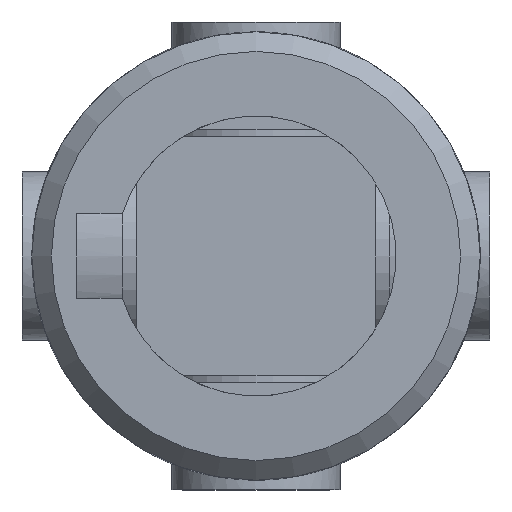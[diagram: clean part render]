
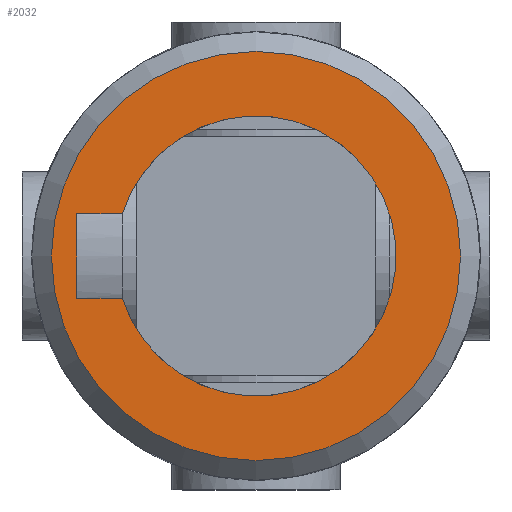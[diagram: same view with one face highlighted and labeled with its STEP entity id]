
A CAD part, front view. The second image highlights one B-rep face of the part: STEP entity #2032.
In plain terms, the highlighted planar face has unit normal (0, -1, 0).
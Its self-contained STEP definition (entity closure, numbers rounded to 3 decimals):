
#122=LINE('',#3659,#201);
#124=LINE('',#3665,#203);
#128=LINE('',#3677,#207);
#201=VECTOR('',#2594,3.);
#203=VECTOR('',#2600,1.63);
#207=VECTOR('',#2612,1.63);
#283=PLANE('',#2226);
#452=FACE_BOUND('',#711,.T.);
#547=FACE_OUTER_BOUND('',#710,.T.);
#710=EDGE_LOOP('',(#1703));
#711=EDGE_LOOP('',(#1704,#1705,#1706,#1707));
#832=CIRCLE('',#2212,5.);
#839=CIRCLE('',#2224,7.3);
#983=VERTEX_POINT('',#3656);
#984=VERTEX_POINT('',#3658);
#986=VERTEX_POINT('',#3664);
#990=VERTEX_POINT('',#3675);
#1004=VERTEX_POINT('',#3776);
#1225=EDGE_CURVE('',#984,#983,#122,.T.);
#1228=EDGE_CURVE('',#986,#984,#124,.T.);
#1234=EDGE_CURVE('',#983,#990,#128,.T.);
#1243=EDGE_CURVE('',#990,#986,#832,.T.);
#1255=EDGE_CURVE('',#1004,#1004,#839,.T.);
#1703=ORIENTED_EDGE('',*,*,#1255,.F.);
#1704=ORIENTED_EDGE('',*,*,#1234,.T.);
#1705=ORIENTED_EDGE('',*,*,#1243,.T.);
#1706=ORIENTED_EDGE('',*,*,#1228,.T.);
#1707=ORIENTED_EDGE('',*,*,#1225,.T.);
#2032=ADVANCED_FACE('',(#547,#452),#283,.F.);
#2212=AXIS2_PLACEMENT_3D('',#3722,#2621,#2622);
#2224=AXIS2_PLACEMENT_3D('',#3777,#2646,#2647);
#2226=AXIS2_PLACEMENT_3D('',#3945,#2654,#2655);
#2594=DIRECTION('',(-1.,0.,0.));
#2600=DIRECTION('',(0.,0.,-1.));
#2612=DIRECTION('',(0.,0.,1.));
#2621=DIRECTION('center_axis',(0.,1.,0.));
#2622=DIRECTION('ref_axis',(-0.3,0.,0.954));
#2646=DIRECTION('center_axis',(0.,1.,0.));
#2647=DIRECTION('ref_axis',(1.,0.,0.));
#2654=DIRECTION('center_axis',(0.,1.,0.));
#2655=DIRECTION('ref_axis',(0.,0.,1.));
#3656=CARTESIAN_POINT('',(-1.5,-30.,-6.4));
#3658=CARTESIAN_POINT('',(1.5,-30.,-6.4));
#3659=CARTESIAN_POINT('',(0.75,-30.,-6.4));
#3664=CARTESIAN_POINT('',(1.5,-30.,-4.77));
#3665=CARTESIAN_POINT('',(1.5,-30.,-2.385));
#3675=CARTESIAN_POINT('',(-1.5,-30.,-4.77));
#3677=CARTESIAN_POINT('',(-1.5,-30.,-3.2));
#3722=CARTESIAN_POINT('Origin',(0.,-30.,0.));
#3776=CARTESIAN_POINT('',(-7.3,-30.,0.));
#3777=CARTESIAN_POINT('Origin',(0.,-30.,0.));
#3945=CARTESIAN_POINT('Origin',(0.,-30.,0.));
